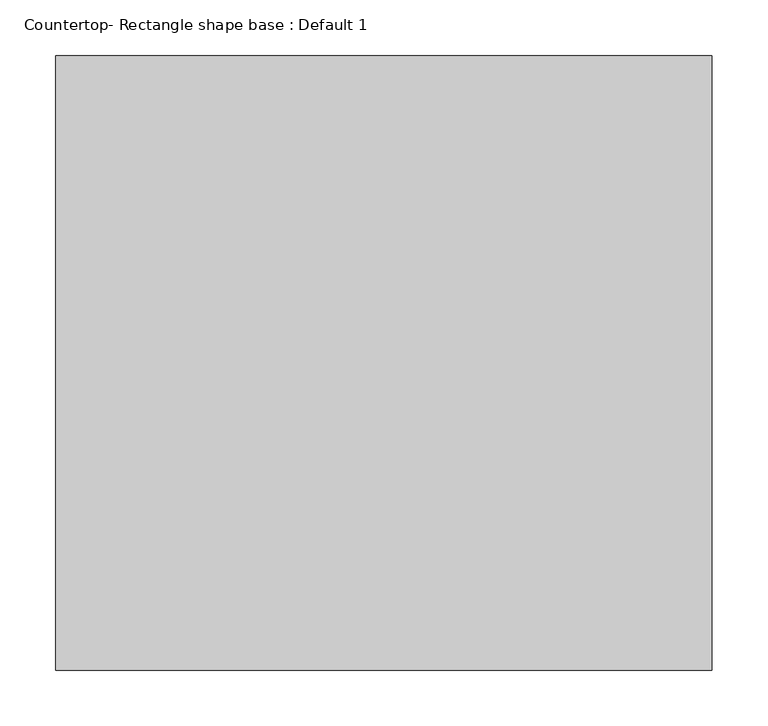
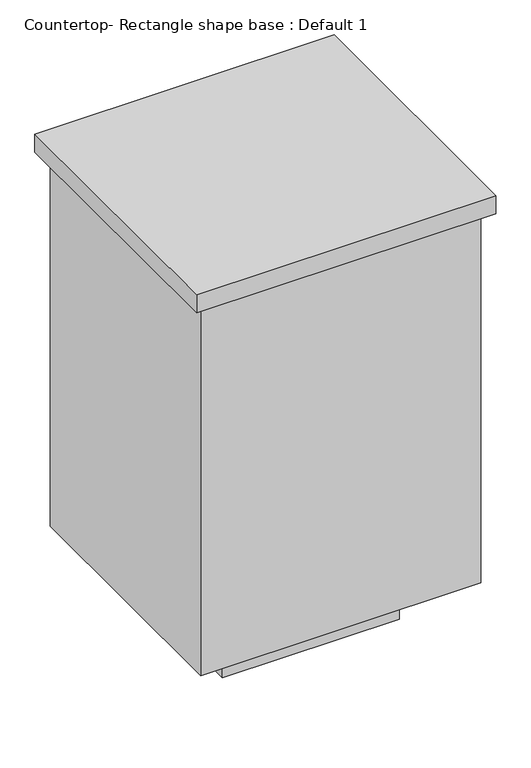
"""IFC4 building model written with IfcOpenShell, lengths in millimetres: proxy geometry, Countertop- Rectangle shape base : Default 1."""

from ifc_helpers import new_model, si_unit, frame, origin, origin_with_axes, place, context, project, spatial, polyline, outline, extrude, source, transform, mapped, element, save


def countertop_rectangle_shape_base_default_1_d7b4d32e(model_context):
    return source(origin(), model_context, "Body", "SweptSolid", [
        extrude(outline(polyline([(466.725, 104.775), (466.725, 657.225), (1057.275, 657.225), (1057.275, 104.775), (466.725, 104.775)])), frame((0.0, 0.0, 876.3), z_axis=(0.0, 0.0, 1.0), x_axis=(1.0, 0.0, 0.0)), (0.0, 0.0, 1.0), 38.1),
        extrude(outline(polyline([(1038.225, 638.175), (1038.225, 123.825), (485.775, 123.825), (485.775, 638.175), (1038.225, 638.175)])), frame((0.0, 0.0, 101.6), z_axis=(0.0, 0.0, 1.0), x_axis=(1.0, 0.0, 0.0)), (0.0, 0.0, 1.0), 774.7),
        extrude(outline(polyline([(936.625, 536.575), (936.625, 225.425), (587.375, 225.425), (587.375, 536.575), (936.625, 536.575)])), origin_with_axes(), (0.0, 0.0, 1.0), 101.6),
    ])


if __name__ == "__main__":
    model = new_model("IFC4")
    model_context = context("Model", 3, world=origin())
    ifc_project = project(units=[si_unit("LENGTHUNIT", "METRE", prefix="MILLI")], contexts=[model_context])
    site = spatial("IfcSite", under=ifc_project)
    building = spatial("IfcBuilding", under=site)
    placement = place(None, origin())
    countertop_rectangle_shape_base_default_1_shape = countertop_rectangle_shape_base_default_1_d7b4d32e(model_context)
    element("IfcBuildingElementProxy", 1, Name="Countertop- Rectangle shape base : Default 1", ObjectType="Countertop- Rectangle shape base : Default 1", at=placement, inside=building, context=model_context, shape_type="MappedRepresentation", body=[
        mapped(countertop_rectangle_shape_base_default_1_shape, transform((0.0, 0.0, 0.0), x_axis=(1.0, 0.0, 0.0), y_axis=(0.0, 1.0, 0.0), z_axis=(0.0, 0.0, 1.0))),
    ])
    save(model, "model.ifc")
